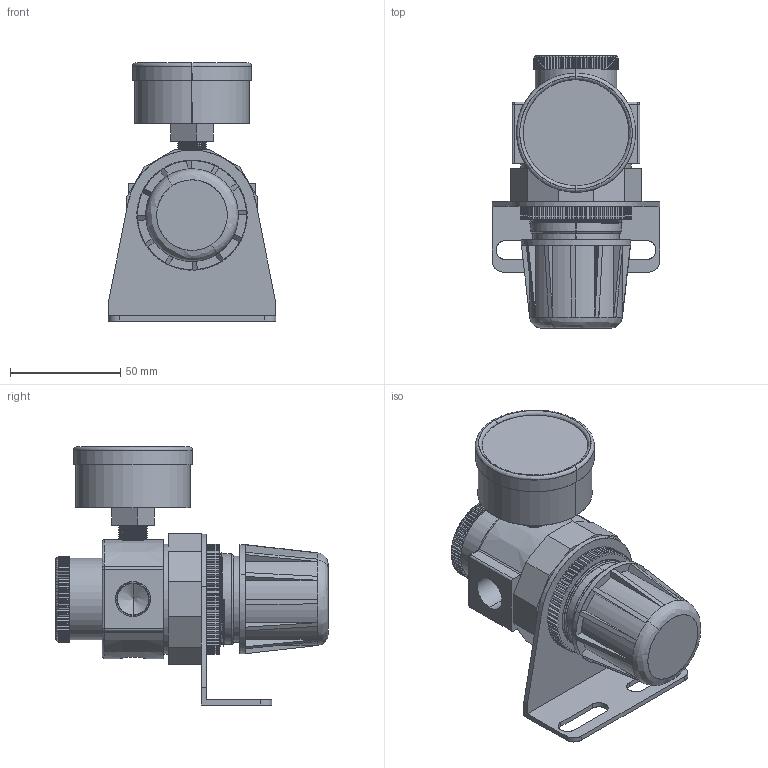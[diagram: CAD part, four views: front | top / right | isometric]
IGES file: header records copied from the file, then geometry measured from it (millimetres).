
Start section: SolidWorks IGES file using analytic representation for surfaces
Global section: file name: C:\Users\Toshiba\Desktop\R010-03GB#.IGS; native system: SolidWorks 2014; preprocessor: SolidWorks 2014; author: Toshiba; date: 160216.135625; units: millimetre
Bounding box: 76 x 123.5 x 117 mm (x, y, z)
Surface area: 65289.2 mm2 (no closed solid volume)
Topology: 0 solids, 0 shells, 715 faces, 6580 edges, 6568 vertices
Faces by surface type: bspline 440, revolution 275
